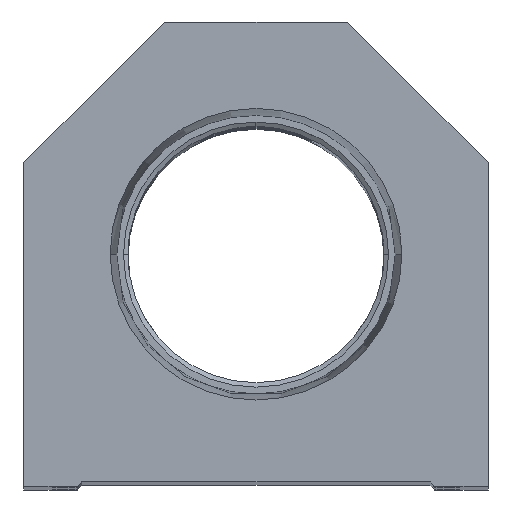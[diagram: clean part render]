
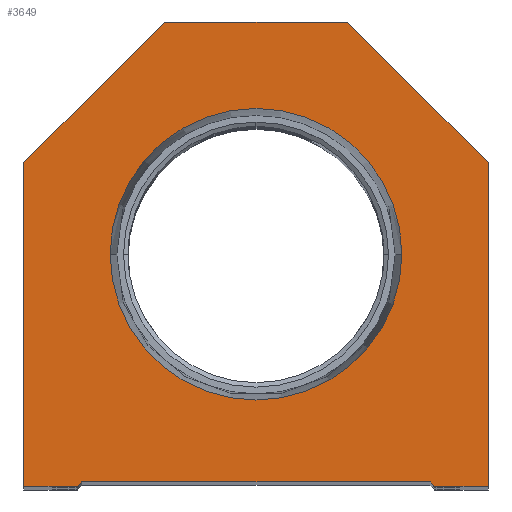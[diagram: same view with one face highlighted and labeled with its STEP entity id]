
A CAD part, top view. The second image highlights one B-rep face of the part: STEP entity #3649.
In plain terms, the highlighted planar face has unit normal (0, 0, 1).
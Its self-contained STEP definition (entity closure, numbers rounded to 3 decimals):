
#98 = ORIENTED_EDGE ( 'NONE', *, *, #15224, .T. ) ;
#457 = DIRECTION ( 'NONE',  ( 0., -1., 0. ) ) ;
#649 = DIRECTION ( 'NONE',  ( 0.707, -0.707, 0. ) ) ;
#1032 = EDGE_CURVE ( 'NONE', #8481, #11400, #13308, .T. ) ;
#1329 = AXIS2_PLACEMENT_3D ( 'NONE', #19971, #4513, #7670 ) ;
#1437 = CARTESIAN_POINT ( 'NONE',  ( 25.4, 0., 0. ) ) ;
#1540 = VERTEX_POINT ( 'NONE', #15043 ) ;
#1828 = ORIENTED_EDGE ( 'NONE', *, *, #12496, .T. ) ;
#2447 = VECTOR ( 'NONE', #649, 1000. ) ;
#2688 = CARTESIAN_POINT ( 'NONE',  ( 0., 25.4, 0. ) ) ;
#2806 = CARTESIAN_POINT ( 'NONE',  ( 10., 50.8, 0. ) ) ;
#3154 = CARTESIAN_POINT ( 'NONE',  ( -25.4, 0., 0. ) ) ;
#3649 = ADVANCED_FACE ( 'NONE', ( #7735, #15424 ), #7523, .T. ) ;
#3887 = ORIENTED_EDGE ( 'NONE', *, *, #12315, .T. ) ;
#4083 = CIRCLE ( 'NONE', #16402, 15.947 ) ;
#4497 = ORIENTED_EDGE ( 'NONE', *, *, #1032, .F. ) ;
#4513 = DIRECTION ( 'NONE',  ( 0., 0., 1. ) ) ;
#4592 = DIRECTION ( 'NONE',  ( -0.707, -0.707, 0. ) ) ;
#5192 = ORIENTED_EDGE ( 'NONE', *, *, #9943, .T. ) ;
#5907 = EDGE_CURVE ( 'NONE', #1540, #15683, #14847, .T. ) ;
#5922 = DIRECTION ( 'NONE',  ( 1., 0., 0. ) ) ;
#5965 = DIRECTION ( 'NONE',  ( 0.707, 0.707, 0. ) ) ;
#6015 = LINE ( 'NONE', #13553, #6717 ) ;
#6055 = LINE ( 'NONE', #6251, #12548 ) ;
#6251 = CARTESIAN_POINT ( 'NONE',  ( 25.4, 35.4, 0. ) ) ;
#6270 = LINE ( 'NONE', #15706, #14128 ) ;
#6315 = CARTESIAN_POINT ( 'NONE',  ( -25.4, 0., 0. ) ) ;
#6462 = DIRECTION ( 'NONE',  ( 1., 0., 0. ) ) ;
#6476 = EDGE_CURVE ( 'NONE', #12335, #12918, #16835, .T. ) ;
#6717 = VECTOR ( 'NONE', #4592, 1000. ) ;
#6817 = LINE ( 'NONE', #12707, #13282 ) ;
#7132 = CARTESIAN_POINT ( 'NONE',  ( -19.05, 0.5, 0. ) ) ;
#7357 = VECTOR ( 'NONE', #6462, 1000. ) ;
#7423 = DIRECTION ( 'NONE',  ( 0., 1., 0. ) ) ;
#7523 = PLANE ( 'NONE',  #15244 ) ;
#7670 = DIRECTION ( 'NONE',  ( 1., 0., 0. ) ) ;
#7735 = FACE_BOUND ( 'NONE', #10660, .T. ) ;
#8341 = CARTESIAN_POINT ( 'NONE',  ( 9.775, 9.775, 0. ) ) ;
#8481 = VERTEX_POINT ( 'NONE', #9505 ) ;
#8651 = ORIENTED_EDGE ( 'NONE', *, *, #16652, .T. ) ;
#9051 = DIRECTION ( 'NONE',  ( 0., 0., 1. ) ) ;
#9505 = CARTESIAN_POINT ( 'NONE',  ( -15.947, 25.4, 0. ) ) ;
#9635 = EDGE_CURVE ( 'NONE', #12748, #16130, #14522, .T. ) ;
#9943 = EDGE_CURVE ( 'NONE', #12918, #15723, #6270, .T. ) ;
#10338 = DIRECTION ( 'NONE',  ( -1., 0., 0. ) ) ;
#10591 = CARTESIAN_POINT ( 'NONE',  ( 15.947, 25.4, 0. ) ) ;
#10660 = EDGE_LOOP ( 'NONE', ( #17463, #4497 ) ) ;
#11274 = VERTEX_POINT ( 'NONE', #13048 ) ;
#11400 = VERTEX_POINT ( 'NONE', #10591 ) ;
#11583 = CARTESIAN_POINT ( 'NONE',  ( -25.4, 35.4, 0. ) ) ;
#11611 = VECTOR ( 'NONE', #457, 1000. ) ;
#12113 = ORIENTED_EDGE ( 'NONE', *, *, #5907, .T. ) ;
#12315 = EDGE_CURVE ( 'NONE', #17433, #17629, #6015, .T. ) ;
#12335 = VERTEX_POINT ( 'NONE', #6315 ) ;
#12446 = DIRECTION ( 'NONE',  ( -0.707, 0.707, 0. ) ) ;
#12496 = EDGE_CURVE ( 'NONE', #15723, #12748, #15678, .T. ) ;
#12548 = VECTOR ( 'NONE', #12446, 1000. ) ;
#12707 = CARTESIAN_POINT ( 'NONE',  ( 19.05, 0., 0. ) ) ;
#12748 = VERTEX_POINT ( 'NONE', #12829 ) ;
#12829 = CARTESIAN_POINT ( 'NONE',  ( 19.05, 0.5, 0. ) ) ;
#12918 = VERTEX_POINT ( 'NONE', #13538 ) ;
#13048 = CARTESIAN_POINT ( 'NONE',  ( 10., 50.8, 0. ) ) ;
#13079 = EDGE_CURVE ( 'NONE', #17629, #12335, #14133, .T. ) ;
#13282 = VECTOR ( 'NONE', #17401, 1000. ) ;
#13308 = CIRCLE ( 'NONE', #1329, 15.947 ) ;
#13538 = CARTESIAN_POINT ( 'NONE',  ( -19.55, 0., 0. ) ) ;
#13553 = CARTESIAN_POINT ( 'NONE',  ( -25.4, 35.4, 0. ) ) ;
#13683 = DIRECTION ( 'NONE',  ( 1., 0., 0. ) ) ;
#14066 = VECTOR ( 'NONE', #10338, 1000. ) ;
#14128 = VECTOR ( 'NONE', #5965, 1000. ) ;
#14133 = LINE ( 'NONE', #3154, #11611 ) ;
#14522 = LINE ( 'NONE', #8341, #2447 ) ;
#14847 = LINE ( 'NONE', #1437, #15015 ) ;
#14870 = CARTESIAN_POINT ( 'NONE',  ( 25.4, 35.4, 0. ) ) ;
#15015 = VECTOR ( 'NONE', #7423, 1000. ) ;
#15043 = CARTESIAN_POINT ( 'NONE',  ( 25.4, 0., 0. ) ) ;
#15224 = EDGE_CURVE ( 'NONE', #15683, #11274, #6055, .T. ) ;
#15244 = AXIS2_PLACEMENT_3D ( 'NONE', #16773, #9051, #19927 ) ;
#15424 = FACE_OUTER_BOUND ( 'NONE', #19819, .T. ) ;
#15678 = LINE ( 'NONE', #18768, #7357 ) ;
#15683 = VERTEX_POINT ( 'NONE', #14870 ) ;
#15706 = CARTESIAN_POINT ( 'NONE',  ( -9.775, 9.775, 0. ) ) ;
#15723 = VERTEX_POINT ( 'NONE', #7132 ) ;
#15868 = CARTESIAN_POINT ( 'NONE',  ( -10., 50.8, 0. ) ) ;
#16008 = ORIENTED_EDGE ( 'NONE', *, *, #9635, .T. ) ;
#16130 = VERTEX_POINT ( 'NONE', #19079 ) ;
#16402 = AXIS2_PLACEMENT_3D ( 'NONE', #2688, #18044, #5922 ) ;
#16652 = EDGE_CURVE ( 'NONE', #16130, #1540, #6817, .T. ) ;
#16769 = ORIENTED_EDGE ( 'NONE', *, *, #17972, .T. ) ;
#16773 = CARTESIAN_POINT ( 'NONE',  ( 0., 0., 0. ) ) ;
#16835 = LINE ( 'NONE', #19897, #17657 ) ;
#17401 = DIRECTION ( 'NONE',  ( 1., 0., 0. ) ) ;
#17433 = VERTEX_POINT ( 'NONE', #15868 ) ;
#17463 = ORIENTED_EDGE ( 'NONE', *, *, #18763, .F. ) ;
#17629 = VERTEX_POINT ( 'NONE', #11583 ) ;
#17657 = VECTOR ( 'NONE', #13683, 1000. ) ;
#17930 = ORIENTED_EDGE ( 'NONE', *, *, #6476, .T. ) ;
#17972 = EDGE_CURVE ( 'NONE', #11274, #17433, #19792, .T. ) ;
#18044 = DIRECTION ( 'NONE',  ( 0., 0., 1. ) ) ;
#18763 = EDGE_CURVE ( 'NONE', #11400, #8481, #4083, .T. ) ;
#18768 = CARTESIAN_POINT ( 'NONE',  ( -19.05, 0.5, 0. ) ) ;
#19079 = CARTESIAN_POINT ( 'NONE',  ( 19.55, 0., 0. ) ) ;
#19307 = ORIENTED_EDGE ( 'NONE', *, *, #13079, .T. ) ;
#19792 = LINE ( 'NONE', #2806, #14066 ) ;
#19819 = EDGE_LOOP ( 'NONE', ( #17930, #5192, #1828, #16008, #8651, #12113, #98, #16769, #3887, #19307 ) ) ;
#19897 = CARTESIAN_POINT ( 'NONE',  ( -19.05, 0., 0. ) ) ;
#19927 = DIRECTION ( 'NONE',  ( 1., 0., 0. ) ) ;
#19971 = CARTESIAN_POINT ( 'NONE',  ( 0., 25.4, 0. ) ) ;
